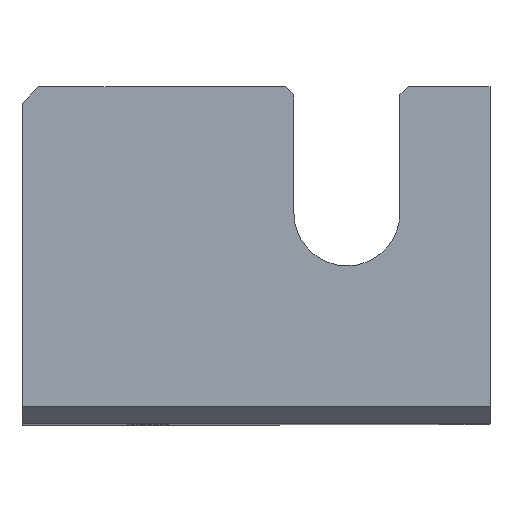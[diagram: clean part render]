
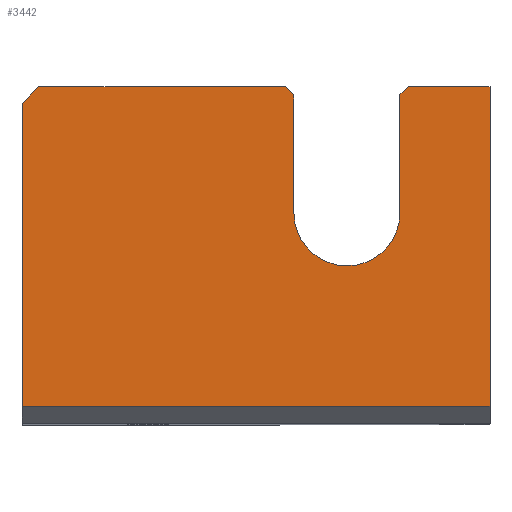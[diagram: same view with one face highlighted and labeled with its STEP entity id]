
A CAD part, top view. The second image highlights one B-rep face of the part: STEP entity #3442.
In plain terms, the highlighted planar face has unit normal (0, 0, 1).
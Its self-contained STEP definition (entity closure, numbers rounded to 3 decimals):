
#38 = DIRECTION ( 'NONE',  ( 1., 0., 0. ) ) ;
#56 = LINE ( 'NONE', #97, #971 ) ;
#80 = ORIENTED_EDGE ( 'NONE', *, *, #2571, .F. ) ;
#91 = VERTEX_POINT ( 'NONE', #2464 ) ;
#97 = CARTESIAN_POINT ( 'NONE',  ( 27.8, 20., 46. ) ) ;
#121 = LINE ( 'NONE', #257, #284 ) ;
#125 = CIRCLE ( 'NONE', #3187, 6.3 ) ;
#206 = LINE ( 'NONE', #745, #975 ) ;
#217 = ORIENTED_EDGE ( 'NONE', *, *, #3199, .T. ) ;
#232 = DIRECTION ( 'NONE',  ( -0.707, 0.707, 0. ) ) ;
#257 = CARTESIAN_POINT ( 'NONE',  ( -27.8, 20., 46. ) ) ;
#284 = VECTOR ( 'NONE', #3421, 1000. ) ;
#397 = CARTESIAN_POINT ( 'NONE',  ( 3.5, 20., 46. ) ) ;
#454 = LINE ( 'NONE', #3175, #2706 ) ;
#466 = VERTEX_POINT ( 'NONE', #1053 ) ;
#474 = ORIENTED_EDGE ( 'NONE', *, *, #1377, .T. ) ;
#493 = CARTESIAN_POINT ( 'NONE',  ( 4.5, 19., 46. ) ) ;
#582 = CARTESIAN_POINT ( 'NONE',  ( -27.8, 20., 46. ) ) ;
#638 = LINE ( 'NONE', #3464, #2790 ) ;
#647 = DIRECTION ( 'NONE',  ( 0., -1., 0. ) ) ;
#654 = FACE_OUTER_BOUND ( 'NONE', #2685, .T. ) ;
#745 = CARTESIAN_POINT ( 'NONE',  ( -27.8, 20., 46. ) ) ;
#846 = LINE ( 'NONE', #852, #1047 ) ;
#852 = CARTESIAN_POINT ( 'NONE',  ( -27.8, -18., 46. ) ) ;
#879 = VERTEX_POINT ( 'NONE', #2344 ) ;
#971 = VECTOR ( 'NONE', #647, 1000. ) ;
#975 = VECTOR ( 'NONE', #999, 1000. ) ;
#999 = DIRECTION ( 'NONE',  ( 1., 0., 0. ) ) ;
#1024 = ORIENTED_EDGE ( 'NONE', *, *, #1250, .T. ) ;
#1047 = VECTOR ( 'NONE', #38, 1000. ) ;
#1053 = CARTESIAN_POINT ( 'NONE',  ( 27.8, -18., 46. ) ) ;
#1119 = PLANE ( 'NONE',  #1257 ) ;
#1124 = VECTOR ( 'NONE', #1181, 1000. ) ;
#1134 = ORIENTED_EDGE ( 'NONE', *, *, #1338, .T. ) ;
#1161 = DIRECTION ( 'NONE',  ( 0., -1., 0. ) ) ;
#1181 = DIRECTION ( 'NONE',  ( 0., 1., 0. ) ) ;
#1205 = ORIENTED_EDGE ( 'NONE', *, *, #2195, .F. ) ;
#1250 = EDGE_CURVE ( 'NONE', #2604, #466, #846, .T. ) ;
#1257 = AXIS2_PLACEMENT_3D ( 'NONE', #582, #1606, #1700 ) ;
#1304 = DIRECTION ( 'NONE',  ( 0., -1., 0. ) ) ;
#1316 = CARTESIAN_POINT ( 'NONE',  ( 18.1, 20., 46. ) ) ;
#1338 = EDGE_CURVE ( 'NONE', #2361, #2604, #454, .T. ) ;
#1377 = EDGE_CURVE ( 'NONE', #2208, #3018, #638, .T. ) ;
#1572 = EDGE_CURVE ( 'NONE', #879, #2281, #3311, .T. ) ;
#1606 = DIRECTION ( 'NONE',  ( 0., 0., -1. ) ) ;
#1632 = ORIENTED_EDGE ( 'NONE', *, *, #2492, .T. ) ;
#1700 = DIRECTION ( 'NONE',  ( -1., 0., 0. ) ) ;
#1823 = VERTEX_POINT ( 'NONE', #2373 ) ;
#1839 = ORIENTED_EDGE ( 'NONE', *, *, #3227, .T. ) ;
#1871 = CARTESIAN_POINT ( 'NONE',  ( -25.8, 20., 46. ) ) ;
#1904 = LINE ( 'NONE', #2605, #2406 ) ;
#1911 = CARTESIAN_POINT ( 'NONE',  ( -27.8, 18., 46. ) ) ;
#1978 = ORIENTED_EDGE ( 'NONE', *, *, #2786, .F. ) ;
#2166 = CARTESIAN_POINT ( 'NONE',  ( 4.5, 33.362, 46. ) ) ;
#2195 = EDGE_CURVE ( 'NONE', #3337, #3018, #206, .T. ) ;
#2208 = VERTEX_POINT ( 'NONE', #493 ) ;
#2248 = DIRECTION ( 'NONE',  ( 0., 0., -1. ) ) ;
#2281 = VERTEX_POINT ( 'NONE', #3387 ) ;
#2300 = CARTESIAN_POINT ( 'NONE',  ( -27.8, -18., 46. ) ) ;
#2344 = CARTESIAN_POINT ( 'NONE',  ( 17.1, 19., 46. ) ) ;
#2361 = VERTEX_POINT ( 'NONE', #1911 ) ;
#2373 = CARTESIAN_POINT ( 'NONE',  ( 4.5, 5., 46. ) ) ;
#2406 = VECTOR ( 'NONE', #2754, 1000. ) ;
#2434 = EDGE_CURVE ( 'NONE', #1823, #2208, #3001, .T. ) ;
#2464 = CARTESIAN_POINT ( 'NONE',  ( 27.8, 20., 46. ) ) ;
#2492 = EDGE_CURVE ( 'NONE', #2281, #1823, #125, .T. ) ;
#2571 = EDGE_CURVE ( 'NONE', #3093, #91, #121, .T. ) ;
#2604 = VERTEX_POINT ( 'NONE', #2300 ) ;
#2605 = CARTESIAN_POINT ( 'NONE',  ( -25.8, 20., 46. ) ) ;
#2685 = EDGE_LOOP ( 'NONE', ( #1205, #1839, #1134, #1024, #1978, #80, #217, #2715, #1632, #3476, #474 ) ) ;
#2690 = CARTESIAN_POINT ( 'NONE',  ( 17.1, 19., 46. ) ) ;
#2706 = VECTOR ( 'NONE', #1304, 1000. ) ;
#2715 = ORIENTED_EDGE ( 'NONE', *, *, #1572, .T. ) ;
#2741 = VECTOR ( 'NONE', #1161, 1000. ) ;
#2754 = DIRECTION ( 'NONE',  ( -0.707, -0.707, 0. ) ) ;
#2764 = CARTESIAN_POINT ( 'NONE',  ( 17.1, 33.362, 46. ) ) ;
#2786 = EDGE_CURVE ( 'NONE', #91, #466, #56, .T. ) ;
#2790 = VECTOR ( 'NONE', #232, 1000. ) ;
#2941 = DIRECTION ( 'NONE',  ( -1., 0., 0. ) ) ;
#3001 = LINE ( 'NONE', #2166, #1124 ) ;
#3018 = VERTEX_POINT ( 'NONE', #397 ) ;
#3093 = VERTEX_POINT ( 'NONE', #1316 ) ;
#3169 = VECTOR ( 'NONE', #3327, 1000. ) ;
#3175 = CARTESIAN_POINT ( 'NONE',  ( -27.8, 20., 46. ) ) ;
#3187 = AXIS2_PLACEMENT_3D ( 'NONE', #3214, #2248, #2941 ) ;
#3199 = EDGE_CURVE ( 'NONE', #3093, #879, #3286, .T. ) ;
#3214 = CARTESIAN_POINT ( 'NONE',  ( 10.8, 5., 46. ) ) ;
#3227 = EDGE_CURVE ( 'NONE', #3337, #2361, #1904, .T. ) ;
#3286 = LINE ( 'NONE', #2690, #3169 ) ;
#3311 = LINE ( 'NONE', #2764, #2741 ) ;
#3327 = DIRECTION ( 'NONE',  ( -0.707, -0.707, 0. ) ) ;
#3337 = VERTEX_POINT ( 'NONE', #1871 ) ;
#3387 = CARTESIAN_POINT ( 'NONE',  ( 17.1, 5., 46. ) ) ;
#3421 = DIRECTION ( 'NONE',  ( 1., 0., 0. ) ) ;
#3442 = ADVANCED_FACE ( 'NONE', ( #654 ), #1119, .F. ) ;
#3464 = CARTESIAN_POINT ( 'NONE',  ( 4.5, 19., 46. ) ) ;
#3476 = ORIENTED_EDGE ( 'NONE', *, *, #2434, .T. ) ;
